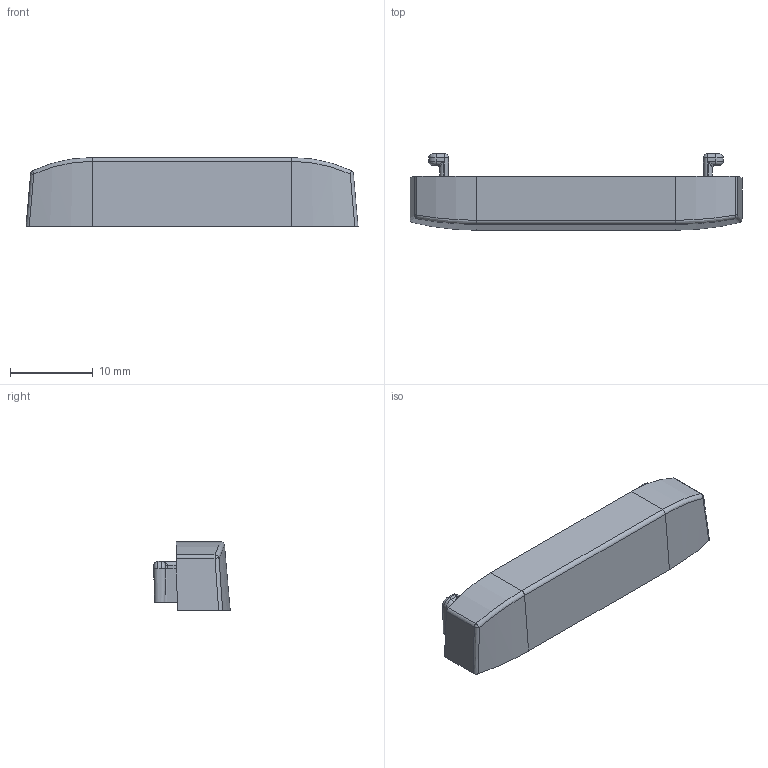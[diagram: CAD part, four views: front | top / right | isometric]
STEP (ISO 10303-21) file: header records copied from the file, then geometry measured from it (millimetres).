
FILE_DESCRIPTION(('CAx-IF Rec.Pracs.---Model Styling and Organization---1.2---2011-12-15','CAx-IF Rec.Pracs.---Geometric and Assembly Validation Properties---4.1---2014-06-16','CAx-IF Rec.Pracs.---PMI Polyline Presentation---2.0---2013-05-24'),'2;1');
FILE_NAME('021-907-06.stp','2020-03-16T14:17:42+01:00',(''),(''),'STEP Interface 4.3 by CT CoreTechnologie','3D_Evolution4.3 by CT CoreTechnologie','');
FILE_SCHEMA(('AP203_CONFIGURATION_CONTROLLED_3D_DESIGN_OF_MECHANICAL_PARTS_AND_ASSEMBLIES_MIM_LF'));
Length unit declared in the file: millimetre
Products named in the file (1): 021-907-06
Bounding box: 40 x 9.2 x 8.3 mm (x, y, z)
Volume: 734.3 mm3; surface area: 1398 mm2
Topology: 1 solids, 1 shells, 223 faces, 580 edges, 378 vertices
Faces by surface type: plane 124, bspline 58, cylinder 41
Entity records: 20895 total; most frequent: CARTESIAN_POINT 7635, ORIENTED_EDGE 1152, PROPERTY_DEFINITION 1056, DIRECTION 920, EDGE_CURVE 576, SHAPE_REPRESENTATION 529, SHAPE_DEFINITION_REPRESENTATION 529, REPRESENTATION 528
